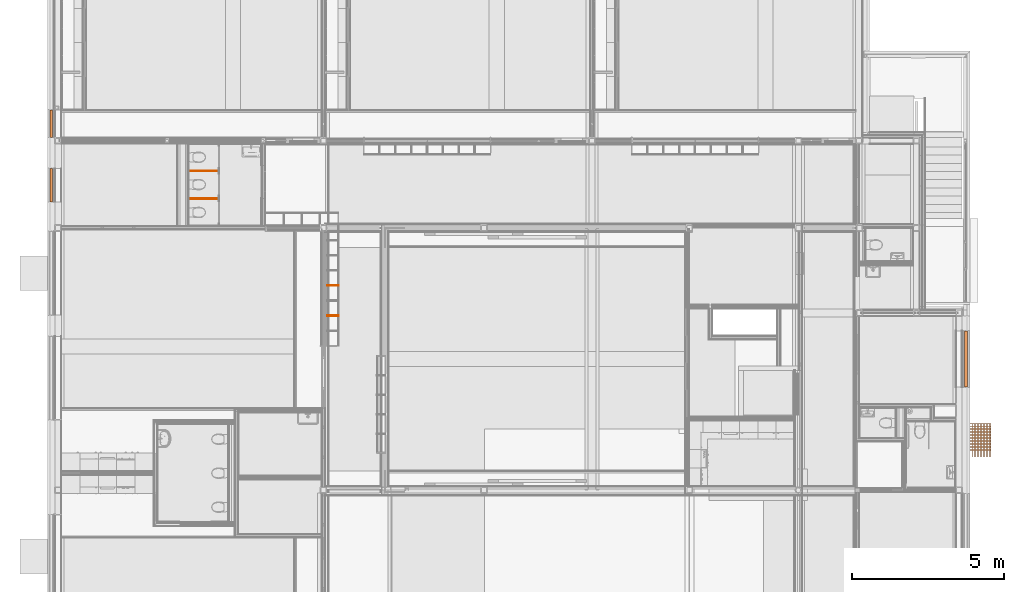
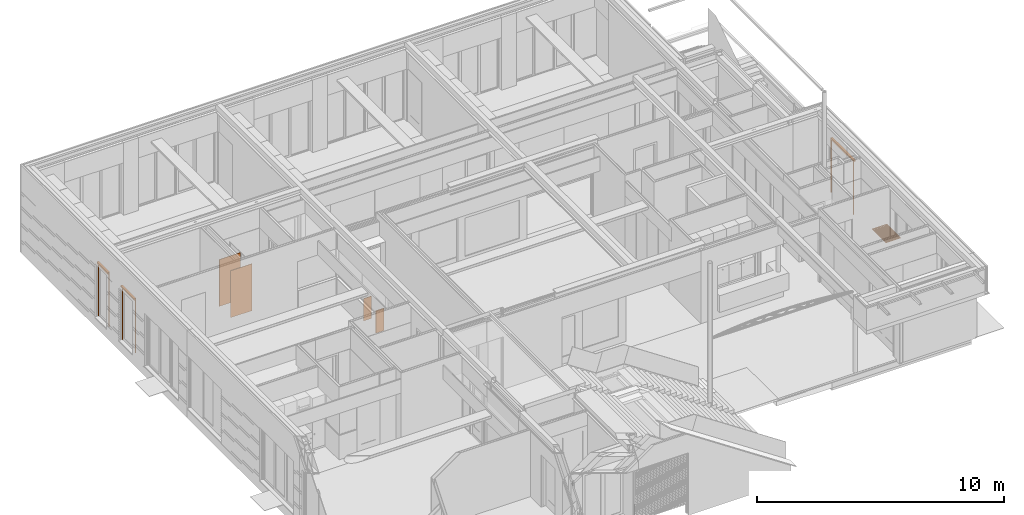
# One storey, part 157 of 165: 8 proxies.
"""IFC2X3 building model written with IfcOpenShell, lengths in millimetres."""

from ifc_helpers import new_model, entity, si_unit, converted_unit, derived_unit, money_unit, direction, frame, origin_with_axes, place, context, subcontext, project, spatial, open_shell, faceted_brep, surface_model, material, type_object, element, save


model = new_model("IFC2X3")

# Units and contexts
model_context = context("Model", 3, precision=0.01, world=origin_with_axes(), true_north=direction((0.0, 1.0)))
body_context = subcontext(model_context, "Body", "Model", "MODEL_VIEW")
ifc_project = project(units=[si_unit("LENGTHUNIT", "METRE", prefix="MILLI"), si_unit("AREAUNIT", "SQUARE_METRE"), si_unit("VOLUMEUNIT", "CUBIC_METRE"), converted_unit("PLANEANGLEUNIT", "DEGREE", entity("IfcPlaneAngleMeasure", 0.0174532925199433), si_unit("PLANEANGLEUNIT", "RADIAN"), dimensions=[0, 0, 0, 0, 0, 0, 0]), money_unit("EUR"), converted_unit("TIMEUNIT", "Year", entity("IfcTimeMeasure", 31556926.0), si_unit("TIMEUNIT", "SECOND"), dimensions=[0, 0, 1, 0, 0, 0, 0]), si_unit("MASSUNIT", "GRAM", prefix="KILO"), si_unit("THERMODYNAMICTEMPERATUREUNIT", "DEGREE_CELSIUS"), si_unit("LUMINOUSINTENSITYUNIT", "LUMEN"), si_unit("ENERGYUNIT", "JOULE", prefix="MEGA"), derived_unit("THERMALCONDUCTANCEUNIT", [(si_unit("POWERUNIT", "WATT"), 1), (si_unit("LENGTHUNIT", "METRE"), -1), (si_unit("THERMODYNAMICTEMPERATUREUNIT", "KELVIN"), -1)]), derived_unit("SPECIFICHEATCAPACITYUNIT", [(si_unit("ENERGYUNIT", "JOULE"), 1), (si_unit("MASSUNIT", "GRAM", prefix="KILO"), -1), (si_unit("THERMODYNAMICTEMPERATUREUNIT", "KELVIN"), -1)]), derived_unit("MASSDENSITYUNIT", [(si_unit("MASSUNIT", "GRAM", prefix="KILO"), 1), (si_unit("VOLUMEUNIT", "CUBIC_METRE"), -1)])], contexts=[model_context])

# Site, building, storey
site_placement = place(None, origin_with_axes())
site = spatial("IfcSite", under=ifc_project, at=site_placement, Name="Site", CompositionType="ELEMENT")
building_placement = place(site_placement, origin_with_axes())
building = spatial("IfcBuilding", under=site, at=building_placement, Name="Naam gebouw", CompositionType="ELEMENT")
storey_placement = place(building_placement, origin_with_axes())
storey = spatial("IfcBuildingStorey", under=building, at=storey_placement, Name="Begane grond", CompositionType="ELEMENT", Elevation=0.0)

# Proxies
ifc_material_1 = material(Name="ALG - ALGEMEEN")
building_element_proxy_type_1 = type_object("IfcBuildingElementProxyType", Name="ALG - ALGEMEEN 20", PredefinedType="NOTDEFINED")
proxy_1_placement = place(storey_placement, frame((5404.999999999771, 20412.4998112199, 100.0), z_axis=(0.0, 0.0, 1.0), x_axis=(-1.0, 0.0, 0.0)))
element("IfcBuildingElementProxy", 1, at=proxy_1_placement, inside=storey, type_object=building_element_proxy_type_1, material=ifc_material_1, Name="_Wand-x", context=body_context, shape_type="Brep", body=[
    faceted_brep([(999.9999999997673, -9.999999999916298, 2320.0), (999.9999999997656, 10.00000000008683, 2320.0), (9.999999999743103, 10.00000000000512, 2320.0), (9.99999999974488, -9.99999999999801, 2320.0), (999.9999999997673, -9.999999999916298, 0.0), (999.9999999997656, 10.00000000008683, 0.0), (9.999999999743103, 10.00000000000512, 0.0), (9.99999999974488, -9.99999999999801, 0.0)], [[[0, 1, 2, 3]], [[1, 0, 4, 5]], [[1, 5, 6, 2]], [[7, 3, 2, 6]], [[4, 0, 3, 7]], [[5, 4, 7, 6]]]),
])
proxy_2_placement = place(storey_placement, frame((5405.000019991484, 21329.98999294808, 100.0), z_axis=(0.0, 0.0, 1.0), x_axis=(-1.0, 0.0, 0.0)))
element("IfcBuildingElementProxy", 2, at=proxy_2_placement, inside=storey, type_object=building_element_proxy_type_1, material=ifc_material_1, Name="_Wand-x", context=body_context, shape_type="Brep", body=[
    faceted_brep([(1000.00001999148, -9.999999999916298, 2320.0), (1000.000019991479, 10.00000000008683, 2320.0), (10.00001999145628, 10.00000000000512, 2320.0), (10.00001999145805, -9.99999999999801, 2320.0), (1000.00001999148, -9.999999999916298, 0.0), (1000.000019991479, 10.00000000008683, 0.0), (10.00001999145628, 10.00000000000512, 0.0), (10.00001999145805, -9.99999999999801, 0.0)], [[[0, 1, 2, 3]], [[1, 0, 4, 5]], [[1, 5, 6, 2]], [[7, 3, 2, 6]], [[4, 0, 3, 7]], [[5, 4, 7, 6]]]),
])
building_element_proxy_type_2 = type_object("IfcBuildingElementProxyType", Name="Screen 26 KM", PredefinedType="NOTDEFINED")
proxy_3_placement = place(storey_placement, frame((29982.0, 14205.99778166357, -8.0), z_axis=(0.0, 0.0, 1.0), x_axis=(0.0, 1.0, 0.0)))
element("IfcBuildingElementProxy", 3, at=proxy_3_placement, inside=storey, type_object=building_element_proxy_type_2, Name="_Object-x", context=body_context, shape_type="SurfaceModel", body=[
    faceted_brep([(0.0, 0.0, 0.0), (0.0, -30.0, 0.0), (0.0, -30.0, 2615.0), (0.0, 0.0, 2615.0), (40.0, 0.0, 0.0), (40.0, -4.999999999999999, 0.0), (37.0, -4.999999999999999, 0.0), (37.0, -3.0, 0.0), (3.0, -3.0, 0.0), (3.0, -27.0, 0.0), (37.0, -27.0, 0.0), (37.0, -25.0, 0.0), (40.0, -25.0, 0.0), (40.0, -30.0, 0.0), (40.0, -30.0, 2615.0), (40.0, -25.0, 2615.0), (37.0, -25.0, 2615.0), (37.0, -27.0, 2615.0), (3.0, -27.0, 2615.0), (3.0, -3.0, 2615.0), (37.0, -3.0, 2615.0), (37.0, -4.999999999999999, 2615.0), (40.0, -4.999999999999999, 2615.0), (40.0, 0.0, 2615.0)], [[[0, 1, 2, 3]], [[0, 4, 5, 6, 7, 8, 9, 10, 11, 12, 13, 1]], [[1, 13, 14, 2]], [[3, 2, 14, 15, 16, 17, 18, 19, 20, 21, 22, 23]], [[4, 0, 3, 23]], [[5, 4, 23, 22]], [[6, 5, 22, 21]], [[7, 6, 21, 20]], [[8, 7, 20, 19]], [[9, 8, 19, 18]], [[10, 9, 18, 17]], [[11, 10, 17, 16]], [[12, 11, 16, 15]], [[13, 12, 15, 14]]]),
    faceted_brep([(1850.000000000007, 0.0, 0.0), (1850.000000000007, 0.0, 2615.0), (1850.000000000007, -30.0, 2615.0), (1850.000000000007, -30.0, 0.0), (1810.000000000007, 0.0, 0.0), (1810.000000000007, 0.0, 2615.0), (1810.000000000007, -4.999999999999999, 2615.0), (1813.000000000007, -4.999999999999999, 2615.0), (1813.000000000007, -3.0, 2615.0), (1847.000000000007, -3.0, 2615.0), (1847.000000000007, -27.0, 2615.0), (1813.000000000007, -27.0, 2615.0), (1813.000000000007, -25.0, 2615.0), (1810.000000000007, -25.0, 2615.0), (1810.000000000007, -30.0, 2615.0), (1810.000000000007, -30.0, 0.0), (1810.000000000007, -25.0, 0.0), (1813.000000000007, -25.0, 0.0), (1813.000000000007, -27.0, 0.0), (1847.000000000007, -27.0, 0.0), (1847.000000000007, -3.0, 0.0), (1813.000000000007, -3.0, 0.0), (1813.000000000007, -4.999999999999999, 0.0), (1810.000000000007, -4.999999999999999, 0.0)], [[[0, 1, 2, 3]], [[4, 5, 1, 0]], [[1, 5, 6, 7, 8, 9, 10, 11, 12, 13, 14, 2]], [[3, 2, 14, 15]], [[0, 3, 15, 16, 17, 18, 19, 20, 21, 22, 23, 4]], [[23, 6, 5, 4]], [[22, 7, 6, 23]], [[21, 8, 7, 22]], [[20, 9, 8, 21]], [[19, 10, 9, 20]], [[18, 11, 10, 19]], [[17, 12, 11, 18]], [[16, 13, 12, 17]], [[15, 14, 13, 16]]]),
    surface_model("IfcShellBasedSurfaceModel", [(0.0, 0.0, 2700.0), (0.0, 0.0, 2615.0), (0.0, -85.0, 2615.0), (0.0, -85.0, 2700.0)], [open_shell([[[0, 1, 2, 3]]])]),
    surface_model("IfcShellBasedSurfaceModel", [(0.01, 0.0, 2700.0), (0.009999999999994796, -85.0, 2700.0), (1849.990000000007, -85.00000000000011, 2700.0), (1849.990000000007, 0.0, 2700.0), (0.01000000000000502, 0.0, 2618.0), (0.01000000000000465, -6.0, 2618.0), (0.01000000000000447, -6.0, 2621.0), (0.01000000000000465, -3.0, 2621.0), (0.01, -3.0, 2697.0), (0.009999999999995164, -82.0, 2697.0), (0.01, -82.0, 2618.0), (0.01000000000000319, -30.0, 2618.0), (0.01000000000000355, -30.0, 2612.0), (0.01000000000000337, -33.0, 2612.0), (0.01000000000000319, -33.0, 2615.0), (0.01, -85.0, 2615.0), (1849.990000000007, -85.00000000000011, 2615.0), (1849.990000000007, -33.00000000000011, 2615.0), (1849.990000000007, -33.00000000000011, 2612.0), (1849.990000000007, -30.00000000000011, 2612.0), (1849.990000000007, -30.00000000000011, 2618.0), (1849.990000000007, -82.00000000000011, 2618.0), (1849.990000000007, -82.00000000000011, 2697.0), (1849.990000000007, -3.000000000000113, 2697.0), (1849.990000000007, -3.000000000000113, 2621.0), (1849.990000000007, -6.000000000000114, 2621.0), (1849.990000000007, -6.000000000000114, 2618.0), (1849.990000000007, 0.0, 2618.0)], [open_shell([[[0, 1, 2, 3]], [[0, 4, 5, 6, 7, 8, 9, 10, 11, 12, 13, 14, 15, 1]], [[1, 15, 16, 2]], [[3, 2, 16, 17, 18, 19, 20, 21, 22, 23, 24, 25, 26, 27]], [[4, 0, 3, 27]], [[13, 12, 19, 18]], [[14, 13, 18, 17]], [[15, 14, 17, 16]]])]),
    surface_model("IfcShellBasedSurfaceModel", [(1849.990000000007, 0.0, 2700.0), (1849.990000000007, 0.0, 2615.0), (1849.990000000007, -85.00000000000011, 2615.0), (1849.990000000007, -85.00000000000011, 2700.0)], [open_shell([[[0, 1, 2, 3]]])]),
])
proxy_4_placement = place(storey_placement, frame((-81.9999999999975, 21409.9998112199, -8.0), z_axis=(0.0, 0.0, 1.0), x_axis=(0.0, -1.0, 0.0)))
element("IfcBuildingElementProxy", 4, at=proxy_4_placement, inside=storey, type_object=building_element_proxy_type_2, Name="_Object-x", context=body_context, shape_type="SurfaceModel", body=[
    faceted_brep([(0.0, 0.0, 0.0), (0.0, -30.0, 0.0), (0.0, -30.0, 2615.0), (0.0, 0.0, 2615.0), (40.0, 0.0, 0.0), (40.0, -4.999999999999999, 0.0), (37.0, -4.999999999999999, 0.0), (37.0, -3.0, 0.0), (3.0, -3.0, 0.0), (3.0, -27.0, 0.0), (37.0, -27.0, 0.0), (37.0, -25.0, 0.0), (40.0, -25.0, 0.0), (40.0, -30.0, 0.0), (40.0, -30.0, 2615.0), (40.0, -25.0, 2615.0), (37.0, -25.0, 2615.0), (37.0, -27.0, 2615.0), (3.0, -27.0, 2615.0), (3.0, -3.0, 2615.0), (37.0, -3.0, 2615.0), (37.0, -4.999999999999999, 2615.0), (40.0, -4.999999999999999, 2615.0), (40.0, 0.0, 2615.0)], [[[0, 1, 2, 3]], [[0, 4, 5, 6, 7, 8, 9, 10, 11, 12, 13, 1]], [[1, 13, 14, 2]], [[3, 2, 14, 15, 16, 17, 18, 19, 20, 21, 22, 23]], [[4, 0, 3, 23]], [[5, 4, 23, 22]], [[6, 5, 22, 21]], [[7, 6, 21, 20]], [[8, 7, 20, 19]], [[9, 8, 19, 18]], [[10, 9, 18, 17]], [[11, 10, 17, 16]], [[12, 11, 16, 15]], [[13, 12, 15, 14]]]),
    faceted_brep([(1100.000000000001, 0.0, 0.0), (1100.000000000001, 0.0, 2615.0), (1100.000000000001, -30.0, 2615.0), (1100.000000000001, -30.0, 0.0), (1060.000000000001, 0.0, 0.0), (1060.000000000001, 0.0, 2615.0), (1060.000000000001, -4.999999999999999, 2615.0), (1063.000000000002, -4.999999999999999, 2615.0), (1063.000000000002, -3.0, 2615.0), (1097.000000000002, -3.0, 2615.0), (1097.000000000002, -27.0, 2615.0), (1063.000000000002, -27.0, 2615.0), (1063.000000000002, -25.0, 2615.0), (1060.000000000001, -25.0, 2615.0), (1060.000000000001, -30.0, 2615.0), (1060.000000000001, -30.0, 0.0), (1060.000000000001, -25.0, 0.0), (1063.000000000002, -25.0, 0.0), (1063.000000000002, -27.0, 0.0), (1097.000000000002, -27.0, 0.0), (1097.000000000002, -3.0, 0.0), (1063.000000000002, -3.0, 0.0), (1063.000000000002, -4.999999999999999, 0.0), (1060.000000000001, -4.999999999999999, 0.0)], [[[0, 1, 2, 3]], [[4, 5, 1, 0]], [[1, 5, 6, 7, 8, 9, 10, 11, 12, 13, 14, 2]], [[3, 2, 14, 15]], [[0, 3, 15, 16, 17, 18, 19, 20, 21, 22, 23, 4]], [[23, 6, 5, 4]], [[22, 7, 6, 23]], [[21, 8, 7, 22]], [[20, 9, 8, 21]], [[19, 10, 9, 20]], [[18, 11, 10, 19]], [[17, 12, 11, 18]], [[16, 13, 12, 17]], [[15, 14, 13, 16]]]),
    surface_model("IfcShellBasedSurfaceModel", [(0.0, 0.0, 2700.0), (0.0, 0.0, 2615.0), (0.0, -85.0, 2615.0), (0.0, -85.0, 2700.0)], [open_shell([[[0, 1, 2, 3]]])]),
    surface_model("IfcShellBasedSurfaceModel", [(0.01, 0.0, 2700.0), (0.009999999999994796, -85.0, 2700.0), (1099.990000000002, -85.00000000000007, 2700.0), (1099.990000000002, 0.0, 2700.0), (0.01000000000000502, 0.0, 2618.0), (0.01000000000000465, -6.0, 2618.0), (0.01000000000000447, -6.0, 2621.0), (0.01000000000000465, -3.0, 2621.0), (0.01, -3.0, 2697.0), (0.009999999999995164, -82.0, 2697.0), (0.01, -82.0, 2618.0), (0.01000000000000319, -30.0, 2618.0), (0.01000000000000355, -30.0, 2612.0), (0.01000000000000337, -33.0, 2612.0), (0.01000000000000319, -33.0, 2615.0), (0.01, -85.0, 2615.0), (1099.990000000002, -85.00000000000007, 2615.0), (1099.990000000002, -33.00000000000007, 2615.0), (1099.990000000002, -33.00000000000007, 2612.0), (1099.990000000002, -30.00000000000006, 2612.0), (1099.990000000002, -30.00000000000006, 2618.0), (1099.990000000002, -82.00000000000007, 2618.0), (1099.990000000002, -82.00000000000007, 2697.0), (1099.990000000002, -3.000000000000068, 2697.0), (1099.990000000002, -3.000000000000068, 2621.0), (1099.990000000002, -6.000000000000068, 2621.0), (1099.990000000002, -6.000000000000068, 2618.0), (1099.990000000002, 0.0, 2618.0)], [open_shell([[[0, 1, 2, 3]], [[0, 4, 5, 6, 7, 8, 9, 10, 11, 12, 13, 14, 15, 1]], [[1, 15, 16, 2]], [[3, 2, 16, 17, 18, 19, 20, 21, 22, 23, 24, 25, 26, 27]], [[4, 0, 3, 27]], [[13, 12, 19, 18]], [[14, 13, 18, 17]], [[15, 14, 17, 16]]])]),
    surface_model("IfcShellBasedSurfaceModel", [(1099.990000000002, 0.0, 2700.0), (1099.990000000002, 0.0, 2615.0), (1099.990000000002, -85.00000000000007, 2615.0), (1099.990000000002, -85.00000000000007, 2700.0)], [open_shell([[[0, 1, 2, 3]]])]),
])
proxy_5_placement = place(storey_placement, frame((-81.99999999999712, 23339.99984707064, -8.0), z_axis=(0.0, 0.0, 1.0), x_axis=(0.0, -1.0, 0.0)))
element("IfcBuildingElementProxy", 5, at=proxy_5_placement, inside=storey, type_object=building_element_proxy_type_2, Name="_Object-x", context=body_context, shape_type="SurfaceModel", body=[
    faceted_brep([(0.0, 0.0, 0.0), (0.0, -30.0, 0.0), (0.0, -30.0, 2615.0), (0.0, 0.0, 2615.0), (40.0, 0.0, 0.0), (40.0, -4.999999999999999, 0.0), (37.0, -4.999999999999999, 0.0), (37.0, -3.0, 0.0), (3.0, -3.0, 0.0), (3.0, -27.0, 0.0), (37.0, -27.0, 0.0), (37.0, -25.0, 0.0), (40.0, -25.0, 0.0), (40.0, -30.0, 0.0), (40.0, -30.0, 2615.0), (40.0, -25.0, 2615.0), (37.0, -25.0, 2615.0), (37.0, -27.0, 2615.0), (3.0, -27.0, 2615.0), (3.0, -3.0, 2615.0), (37.0, -3.0, 2615.0), (37.0, -4.999999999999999, 2615.0), (40.0, -4.999999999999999, 2615.0), (40.0, 0.0, 2615.0)], [[[0, 1, 2, 3]], [[0, 4, 5, 6, 7, 8, 9, 10, 11, 12, 13, 1]], [[1, 13, 14, 2]], [[3, 2, 14, 15, 16, 17, 18, 19, 20, 21, 22, 23]], [[4, 0, 3, 23]], [[5, 4, 23, 22]], [[6, 5, 22, 21]], [[7, 6, 21, 20]], [[8, 7, 20, 19]], [[9, 8, 19, 18]], [[10, 9, 18, 17]], [[11, 10, 17, 16]], [[12, 11, 16, 15]], [[13, 12, 15, 14]]]),
    faceted_brep([(899.9999999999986, 0.0, 0.0), (899.9999999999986, 0.0, 2615.0), (899.9999999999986, -30.0, 2615.0), (899.9999999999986, -30.0, 0.0), (859.9999999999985, 0.0, 0.0), (859.9999999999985, 0.0, 2615.0), (859.9999999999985, -4.999999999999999, 2615.0), (862.9999999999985, -4.999999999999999, 2615.0), (862.9999999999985, -3.0, 2615.0), (896.9999999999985, -3.0, 2615.0), (896.9999999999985, -27.0, 2615.0), (862.9999999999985, -27.0, 2615.0), (862.9999999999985, -25.0, 2615.0), (859.9999999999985, -25.0, 2615.0), (859.9999999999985, -30.0, 2615.0), (859.9999999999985, -30.0, 0.0), (859.9999999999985, -25.0, 0.0), (862.9999999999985, -25.0, 0.0), (862.9999999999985, -27.0, 0.0), (896.9999999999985, -27.0, 0.0), (896.9999999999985, -3.0, 0.0), (862.9999999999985, -3.0, 0.0), (862.9999999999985, -4.999999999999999, 0.0), (859.9999999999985, -4.999999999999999, 0.0)], [[[0, 1, 2, 3]], [[4, 5, 1, 0]], [[1, 5, 6, 7, 8, 9, 10, 11, 12, 13, 14, 2]], [[3, 2, 14, 15]], [[0, 3, 15, 16, 17, 18, 19, 20, 21, 22, 23, 4]], [[23, 6, 5, 4]], [[22, 7, 6, 23]], [[21, 8, 7, 22]], [[20, 9, 8, 21]], [[19, 10, 9, 20]], [[18, 11, 10, 19]], [[17, 12, 11, 18]], [[16, 13, 12, 17]], [[15, 14, 13, 16]]]),
    surface_model("IfcShellBasedSurfaceModel", [(0.0, 0.0, 2700.0), (0.0, 0.0, 2615.0), (0.0, -85.0, 2615.0), (0.0, -85.0, 2700.0)], [open_shell([[[0, 1, 2, 3]]])]),
    surface_model("IfcShellBasedSurfaceModel", [(0.01, 0.0, 2700.0), (0.009999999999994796, -85.0, 2700.0), (899.9899999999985, -85.00000000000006, 2700.0), (899.9899999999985, 0.0, 2700.0), (0.01000000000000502, 0.0, 2618.0), (0.01000000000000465, -6.0, 2618.0), (0.01000000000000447, -6.0, 2621.0), (0.01000000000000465, -3.0, 2621.0), (0.01, -3.0, 2697.0), (0.009999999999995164, -82.0, 2697.0), (0.01, -82.0, 2618.0), (0.01000000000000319, -30.0, 2618.0), (0.01000000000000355, -30.0, 2612.0), (0.01000000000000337, -33.0, 2612.0), (0.01000000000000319, -33.0, 2615.0), (0.01, -85.0, 2615.0), (899.9899999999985, -85.00000000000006, 2615.0), (899.9899999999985, -33.00000000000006, 2615.0), (899.9899999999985, -33.00000000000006, 2612.0), (899.9899999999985, -30.00000000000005, 2612.0), (899.9899999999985, -30.00000000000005, 2618.0), (899.9899999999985, -82.00000000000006, 2618.0), (899.9899999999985, -82.00000000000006, 2697.0), (899.9899999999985, -3.000000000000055, 2697.0), (899.9899999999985, -3.000000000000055, 2621.0), (899.9899999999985, -6.000000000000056, 2621.0), (899.9899999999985, -6.000000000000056, 2618.0), (899.9899999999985, 0.0, 2618.0)], [open_shell([[[0, 1, 2, 3]], [[0, 4, 5, 6, 7, 8, 9, 10, 11, 12, 13, 14, 15, 1]], [[1, 15, 16, 2]], [[3, 2, 16, 17, 18, 19, 20, 21, 22, 23, 24, 25, 26, 27]], [[4, 0, 3, 27]], [[13, 12, 19, 18]], [[14, 13, 18, 17]], [[15, 14, 17, 16]]])]),
    surface_model("IfcShellBasedSurfaceModel", [(899.9899999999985, 0.0, 2700.0), (899.9899999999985, 0.0, 2615.0), (899.9899999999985, -85.00000000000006, 2615.0), (899.9899999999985, -85.00000000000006, 2700.0)], [open_shell([[[0, 1, 2, 3]]])]),
])
building_element_proxy_type_3 = type_object("IfcBuildingElementProxyType", Name="Roostervloer 26 KM", PredefinedType="NOTDEFINED")
proxy_6_placement = place(storey_placement, frame((30849.99999999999, 11899.99778166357, -70.0), z_axis=(0.0, 0.0, 1.0), x_axis=(1.0, 0.0, 0.0)))
element("IfcBuildingElementProxy", 6, at=proxy_6_placement, inside=storey, type_object=building_element_proxy_type_3, Name="_Object-x", context=body_context, shape_type="Brep", body=[
    faceted_brep([(-10.0, 0.0, 20.0), (-10.0, 1100.0, 20.0), (0.0, 1100.0, 20.0), (0.0, 0.0, 20.0), (-10.0, 0.0, 50.0), (-10.0, 1100.0, 50.0), (0.0, 1100.0, 50.0), (0.0, 0.0, 50.0)], [[[0, 1, 2, 3]], [[0, 4, 5, 1]], [[1, 5, 6, 2]], [[2, 6, 7, 3]], [[3, 7, 4, 0]], [[7, 6, 5, 4]]]),
    faceted_brep([(-60.00000000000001, 10.0, 20.0), (-60.00000000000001, 1090.0, 20.0), (-50.0, 1090.0, 20.0), (-50.0, 10.0, 20.0), (-60.00000000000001, 10.0, 50.0), (-60.00000000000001, 1090.0, 50.0), (-50.0, 1090.0, 50.0), (-50.0, 10.0, 50.0)], [[[0, 1, 2, 3]], [[0, 4, 5, 1]], [[1, 5, 6, 2]], [[2, 6, 7, 3]], [[3, 7, 4, 0]], [[7, 6, 5, 4]]]),
    faceted_brep([(-110.0, 10.0, 20.0), (-110.0, 1090.0, 20.0), (-100.0, 1090.0, 20.0), (-100.0, 10.0, 20.0), (-110.0, 10.0, 50.0), (-110.0, 1090.0, 50.0), (-100.0, 1090.0, 50.0), (-100.0, 10.0, 50.0)], [[[0, 1, 2, 3]], [[0, 4, 5, 1]], [[1, 5, 6, 2]], [[2, 6, 7, 3]], [[3, 7, 4, 0]], [[7, 6, 5, 4]]]),
    faceted_brep([(-160.0, 10.0, 20.0), (-160.0, 1090.0, 20.0), (-150.0, 1090.0, 20.0), (-150.0, 10.0, 20.0), (-160.0, 10.0, 50.0), (-160.0, 1090.0, 50.0), (-150.0, 1090.0, 50.0), (-150.0, 10.0, 50.0)], [[[0, 1, 2, 3]], [[0, 4, 5, 1]], [[1, 5, 6, 2]], [[2, 6, 7, 3]], [[3, 7, 4, 0]], [[7, 6, 5, 4]]]),
    faceted_brep([(-210.0, 10.0, 20.0), (-210.0, 1090.0, 20.0), (-200.0, 1090.0, 20.0), (-200.0, 10.0, 20.0), (-210.0, 10.0, 50.0), (-210.0, 1090.0, 50.0), (-200.0, 1090.0, 50.0), (-200.0, 10.0, 50.0)], [[[0, 1, 2, 3]], [[0, 4, 5, 1]], [[1, 5, 6, 2]], [[2, 6, 7, 3]], [[3, 7, 4, 0]], [[7, 6, 5, 4]]]),
    faceted_brep([(-260.0, 10.0, 20.0), (-260.0, 1090.0, 20.0), (-250.0, 1090.0, 20.0), (-250.0, 10.0, 20.0), (-260.0, 10.0, 50.0), (-260.0, 1090.0, 50.0), (-250.0, 1090.0, 50.0), (-250.0, 10.0, 50.0)], [[[0, 1, 2, 3]], [[0, 4, 5, 1]], [[1, 5, 6, 2]], [[2, 6, 7, 3]], [[3, 7, 4, 0]], [[7, 6, 5, 4]]]),
    faceted_brep([(-310.0, 10.0, 20.0), (-310.0, 1090.0, 20.0), (-300.0, 1090.0, 20.0), (-300.0, 10.0, 20.0), (-310.0, 10.0, 50.0), (-310.0, 1090.0, 50.0), (-300.0, 1090.0, 50.0), (-300.0, 10.0, 50.0)], [[[0, 1, 2, 3]], [[0, 4, 5, 1]], [[1, 5, 6, 2]], [[2, 6, 7, 3]], [[3, 7, 4, 0]], [[7, 6, 5, 4]]]),
    faceted_brep([(-360.0, 10.0, 20.0), (-360.0, 1090.0, 20.0), (-350.0, 1090.0, 20.0), (-350.0, 10.0, 20.0), (-360.0, 10.0, 50.0), (-360.0, 1090.0, 50.0), (-350.0, 1090.0, 50.0), (-350.0, 10.0, 50.0)], [[[0, 1, 2, 3]], [[0, 4, 5, 1]], [[1, 5, 6, 2]], [[2, 6, 7, 3]], [[3, 7, 4, 0]], [[7, 6, 5, 4]]]),
    faceted_brep([(-410.0, 10.0, 20.0), (-410.0, 1090.0, 20.0), (-399.9999999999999, 1090.0, 20.0), (-399.9999999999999, 10.0, 20.0), (-410.0, 10.0, 50.0), (-410.0, 1090.0, 50.0), (-399.9999999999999, 1090.0, 50.0), (-399.9999999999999, 10.0, 50.0)], [[[0, 1, 2, 3]], [[0, 4, 5, 1]], [[1, 5, 6, 2]], [[2, 6, 7, 3]], [[3, 7, 4, 0]], [[7, 6, 5, 4]]]),
    faceted_brep([(-459.9999999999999, 10.0, 20.0), (-459.9999999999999, 1090.0, 20.0), (-449.9999999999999, 1090.0, 20.0), (-449.9999999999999, 10.0, 20.0), (-459.9999999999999, 10.0, 50.0), (-459.9999999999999, 1090.0, 50.0), (-449.9999999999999, 1090.0, 50.0), (-449.9999999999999, 10.0, 50.0)], [[[0, 1, 2, 3]], [[0, 4, 5, 1]], [[1, 5, 6, 2]], [[2, 6, 7, 3]], [[3, 7, 4, 0]], [[7, 6, 5, 4]]]),
    faceted_brep([(-509.9999999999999, 10.0, 20.0), (-509.9999999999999, 1090.0, 20.0), (-499.9999999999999, 1090.0, 20.0), (-499.9999999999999, 10.0, 20.0), (-509.9999999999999, 10.0, 50.0), (-509.9999999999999, 1090.0, 50.0), (-499.9999999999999, 1090.0, 50.0), (-499.9999999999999, 10.0, 50.0)], [[[0, 1, 2, 3]], [[0, 4, 5, 1]], [[1, 5, 6, 2]], [[2, 6, 7, 3]], [[3, 7, 4, 0]], [[7, 6, 5, 4]]]),
    faceted_brep([(-559.9999999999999, 10.0, 20.0), (-559.9999999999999, 1090.0, 20.0), (-549.9999999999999, 1090.0, 20.0), (-549.9999999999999, 10.0, 20.0), (-559.9999999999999, 10.0, 50.0), (-559.9999999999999, 1090.0, 50.0), (-549.9999999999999, 1090.0, 50.0), (-549.9999999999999, 10.0, 50.0)], [[[0, 1, 2, 3]], [[0, 4, 5, 1]], [[1, 5, 6, 2]], [[2, 6, 7, 3]], [[3, 7, 4, 0]], [[7, 6, 5, 4]]]),
    faceted_brep([(-610.0, 10.0, 20.0), (-610.0, 1090.0, 20.0), (-600.0, 1090.0, 20.0), (-600.0, 10.0, 20.0), (-610.0, 10.0, 50.0), (-610.0, 1090.0, 50.0), (-600.0, 1090.0, 50.0), (-600.0, 10.0, 50.0)], [[[0, 1, 2, 3]], [[0, 4, 5, 1]], [[1, 5, 6, 2]], [[2, 6, 7, 3]], [[3, 7, 4, 0]], [[7, 6, 5, 4]]]),
    faceted_brep([(-699.9999999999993, 0.0, 20.0), (-699.9999999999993, 1100.0, 20.0), (-689.9999999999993, 1100.0, 20.0), (-689.9999999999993, 0.0, 20.0), (-699.9999999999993, 0.0, 50.0), (-699.9999999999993, 1100.0, 50.0), (-689.9999999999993, 1100.0, 50.0), (-689.9999999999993, 0.0, 50.0)], [[[0, 1, 2, 3]], [[0, 4, 5, 1]], [[1, 5, 6, 2]], [[2, 6, 7, 3]], [[3, 7, 4, 0]], [[7, 6, 5, 4]]]),
    faceted_brep([(-689.9999999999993, 0.0, 0.0), (-689.9999999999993, 10.0, 0.0), (-10.0, 10.0, 0.0), (-10.0, 0.0, 0.0), (-689.9999999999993, 0.0, 50.0), (-689.9999999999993, 10.0, 50.0), (-10.0, 10.0, 50.0), (-10.0, 0.0, 50.0)], [[[0, 1, 2, 3]], [[0, 4, 5, 1]], [[1, 5, 6, 2]], [[2, 6, 7, 3]], [[3, 7, 4, 0]], [[7, 6, 5, 4]]]),
    faceted_brep([(-689.9999999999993, 50.0, 0.0), (-689.9999999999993, 60.00000000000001, 0.0), (-10.0, 60.00000000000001, 0.0), (-10.0, 50.0, 0.0), (-689.9999999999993, 50.0, 50.0), (-689.9999999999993, 60.00000000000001, 50.0), (-10.0, 60.00000000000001, 50.0), (-10.0, 50.0, 50.0)], [[[0, 1, 2, 3]], [[0, 4, 5, 1]], [[1, 5, 6, 2]], [[2, 6, 7, 3]], [[3, 7, 4, 0]], [[7, 6, 5, 4]]]),
    faceted_brep([(-689.9999999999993, 100.0, 0.0), (-689.9999999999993, 110.0, 0.0), (-10.0, 110.0, 0.0), (-10.0, 100.0, 0.0), (-689.9999999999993, 100.0, 50.0), (-689.9999999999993, 110.0, 50.0), (-10.0, 110.0, 50.0), (-10.0, 100.0, 50.0)], [[[0, 1, 2, 3]], [[0, 4, 5, 1]], [[1, 5, 6, 2]], [[2, 6, 7, 3]], [[3, 7, 4, 0]], [[7, 6, 5, 4]]]),
    faceted_brep([(-689.9999999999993, 150.0, 0.0), (-689.9999999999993, 160.0, 0.0), (-10.0, 160.0, 0.0), (-10.0, 150.0, 0.0), (-689.9999999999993, 150.0, 50.0), (-689.9999999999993, 160.0, 50.0), (-10.0, 160.0, 50.0), (-10.0, 150.0, 50.0)], [[[0, 1, 2, 3]], [[0, 4, 5, 1]], [[1, 5, 6, 2]], [[2, 6, 7, 3]], [[3, 7, 4, 0]], [[7, 6, 5, 4]]]),
    faceted_brep([(-689.9999999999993, 200.0, 0.0), (-689.9999999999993, 210.0, 0.0), (-10.0, 210.0, 0.0), (-10.0, 200.0, 0.0), (-689.9999999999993, 200.0, 50.0), (-689.9999999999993, 210.0, 50.0), (-10.0, 210.0, 50.0), (-10.0, 200.0, 50.0)], [[[0, 1, 2, 3]], [[0, 4, 5, 1]], [[1, 5, 6, 2]], [[2, 6, 7, 3]], [[3, 7, 4, 0]], [[7, 6, 5, 4]]]),
    faceted_brep([(-689.9999999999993, 250.0, 0.0), (-689.9999999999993, 260.0, 0.0), (-10.0, 260.0, 0.0), (-10.0, 250.0, 0.0), (-689.9999999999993, 250.0, 50.0), (-689.9999999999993, 260.0, 50.0), (-10.0, 260.0, 50.0), (-10.0, 250.0, 50.0)], [[[0, 1, 2, 3]], [[0, 4, 5, 1]], [[1, 5, 6, 2]], [[2, 6, 7, 3]], [[3, 7, 4, 0]], [[7, 6, 5, 4]]]),
    faceted_brep([(-689.9999999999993, 300.0, 0.0), (-689.9999999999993, 310.0, 0.0), (-10.0, 310.0, 0.0), (-10.0, 300.0, 0.0), (-689.9999999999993, 300.0, 50.0), (-689.9999999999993, 310.0, 50.0), (-10.0, 310.0, 50.0), (-10.0, 300.0, 50.0)], [[[0, 1, 2, 3]], [[0, 4, 5, 1]], [[1, 5, 6, 2]], [[2, 6, 7, 3]], [[3, 7, 4, 0]], [[7, 6, 5, 4]]]),
    faceted_brep([(-689.9999999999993, 350.0, 0.0), (-689.9999999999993, 360.0, 0.0), (-10.0, 360.0, 0.0), (-10.0, 350.0, 0.0), (-689.9999999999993, 350.0, 50.0), (-689.9999999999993, 360.0, 50.0), (-10.0, 360.0, 50.0), (-10.0, 350.0, 50.0)], [[[0, 1, 2, 3]], [[0, 4, 5, 1]], [[1, 5, 6, 2]], [[2, 6, 7, 3]], [[3, 7, 4, 0]], [[7, 6, 5, 4]]]),
    faceted_brep([(-689.9999999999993, 399.9999999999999, 0.0), (-689.9999999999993, 410.0, 0.0), (-10.0, 410.0, 0.0), (-10.0, 399.9999999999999, 0.0), (-689.9999999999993, 399.9999999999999, 50.0), (-689.9999999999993, 410.0, 50.0), (-10.0, 410.0, 50.0), (-10.0, 399.9999999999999, 50.0)], [[[0, 1, 2, 3]], [[0, 4, 5, 1]], [[1, 5, 6, 2]], [[2, 6, 7, 3]], [[3, 7, 4, 0]], [[7, 6, 5, 4]]]),
    faceted_brep([(-689.9999999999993, 449.9999999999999, 0.0), (-689.9999999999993, 459.9999999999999, 0.0), (-10.0, 459.9999999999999, 0.0), (-10.0, 449.9999999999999, 0.0), (-689.9999999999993, 449.9999999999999, 50.0), (-689.9999999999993, 459.9999999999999, 50.0), (-10.0, 459.9999999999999, 50.0), (-10.0, 449.9999999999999, 50.0)], [[[0, 1, 2, 3]], [[0, 4, 5, 1]], [[1, 5, 6, 2]], [[2, 6, 7, 3]], [[3, 7, 4, 0]], [[7, 6, 5, 4]]]),
    faceted_brep([(-689.9999999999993, 499.9999999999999, 0.0), (-689.9999999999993, 509.9999999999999, 0.0), (-10.0, 509.9999999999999, 0.0), (-10.0, 499.9999999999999, 0.0), (-689.9999999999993, 499.9999999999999, 50.0), (-689.9999999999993, 509.9999999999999, 50.0), (-10.0, 509.9999999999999, 50.0), (-10.0, 499.9999999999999, 50.0)], [[[0, 1, 2, 3]], [[0, 4, 5, 1]], [[1, 5, 6, 2]], [[2, 6, 7, 3]], [[3, 7, 4, 0]], [[7, 6, 5, 4]]]),
    faceted_brep([(-689.9999999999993, 549.9999999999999, 0.0), (-689.9999999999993, 559.9999999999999, 0.0), (-10.0, 559.9999999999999, 0.0), (-10.0, 549.9999999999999, 0.0), (-689.9999999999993, 549.9999999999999, 50.0), (-689.9999999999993, 559.9999999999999, 50.0), (-10.0, 559.9999999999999, 50.0), (-10.0, 549.9999999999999, 50.0)], [[[0, 1, 2, 3]], [[0, 4, 5, 1]], [[1, 5, 6, 2]], [[2, 6, 7, 3]], [[3, 7, 4, 0]], [[7, 6, 5, 4]]]),
    faceted_brep([(-689.9999999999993, 600.0, 0.0), (-689.9999999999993, 610.0, 0.0), (-10.0, 610.0, 0.0), (-10.0, 600.0, 0.0), (-689.9999999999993, 600.0, 50.0), (-689.9999999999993, 610.0, 50.0), (-10.0, 610.0, 50.0), (-10.0, 600.0, 50.0)], [[[0, 1, 2, 3]], [[0, 4, 5, 1]], [[1, 5, 6, 2]], [[2, 6, 7, 3]], [[3, 7, 4, 0]], [[7, 6, 5, 4]]]),
    faceted_brep([(-689.9999999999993, 650.0, 0.0), (-689.9999999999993, 660.0, 0.0), (-10.0, 660.0, 0.0), (-10.0, 650.0, 0.0), (-689.9999999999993, 650.0, 50.0), (-689.9999999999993, 660.0, 50.0), (-10.0, 660.0, 50.0), (-10.0, 650.0, 50.0)], [[[0, 1, 2, 3]], [[0, 4, 5, 1]], [[1, 5, 6, 2]], [[2, 6, 7, 3]], [[3, 7, 4, 0]], [[7, 6, 5, 4]]]),
    faceted_brep([(-689.9999999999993, 700.0000000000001, 0.0), (-689.9999999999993, 710.0000000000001, 0.0), (-10.0, 710.0000000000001, 0.0), (-10.0, 700.0000000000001, 0.0), (-689.9999999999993, 700.0000000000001, 50.0), (-689.9999999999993, 710.0000000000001, 50.0), (-10.0, 710.0000000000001, 50.0), (-10.0, 700.0000000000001, 50.0)], [[[0, 1, 2, 3]], [[0, 4, 5, 1]], [[1, 5, 6, 2]], [[2, 6, 7, 3]], [[3, 7, 4, 0]], [[7, 6, 5, 4]]]),
    faceted_brep([(-689.9999999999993, 750.0000000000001, 0.0), (-689.9999999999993, 760.0000000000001, 0.0), (-10.0, 760.0000000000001, 0.0), (-10.0, 750.0000000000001, 0.0), (-689.9999999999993, 750.0000000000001, 50.0), (-689.9999999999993, 760.0000000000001, 50.0), (-10.0, 760.0000000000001, 50.0), (-10.0, 750.0000000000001, 50.0)], [[[0, 1, 2, 3]], [[0, 4, 5, 1]], [[1, 5, 6, 2]], [[2, 6, 7, 3]], [[3, 7, 4, 0]], [[7, 6, 5, 4]]]),
    faceted_brep([(-689.9999999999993, 800.0000000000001, 0.0), (-689.9999999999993, 810.0000000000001, 0.0), (-10.0, 810.0000000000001, 0.0), (-10.0, 800.0000000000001, 0.0), (-689.9999999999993, 800.0000000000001, 50.0), (-689.9999999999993, 810.0000000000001, 50.0), (-10.0, 810.0000000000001, 50.0), (-10.0, 800.0000000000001, 50.0)], [[[0, 1, 2, 3]], [[0, 4, 5, 1]], [[1, 5, 6, 2]], [[2, 6, 7, 3]], [[3, 7, 4, 0]], [[7, 6, 5, 4]]]),
    faceted_brep([(-689.9999999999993, 850.0000000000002, 0.0), (-689.9999999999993, 860.0000000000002, 0.0), (-10.0, 860.0000000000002, 0.0), (-10.0, 850.0000000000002, 0.0), (-689.9999999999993, 850.0000000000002, 50.0), (-689.9999999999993, 860.0000000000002, 50.0), (-10.0, 860.0000000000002, 50.0), (-10.0, 850.0000000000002, 50.0)], [[[0, 1, 2, 3]], [[0, 4, 5, 1]], [[1, 5, 6, 2]], [[2, 6, 7, 3]], [[3, 7, 4, 0]], [[7, 6, 5, 4]]]),
    faceted_brep([(-689.9999999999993, 900.0000000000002, 0.0), (-689.9999999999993, 910.0000000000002, 0.0), (-10.0, 910.0000000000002, 0.0), (-10.0, 900.0000000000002, 0.0), (-689.9999999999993, 900.0000000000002, 50.0), (-689.9999999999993, 910.0000000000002, 50.0), (-10.0, 910.0000000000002, 50.0), (-10.0, 900.0000000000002, 50.0)], [[[0, 1, 2, 3]], [[0, 4, 5, 1]], [[1, 5, 6, 2]], [[2, 6, 7, 3]], [[3, 7, 4, 0]], [[7, 6, 5, 4]]]),
    faceted_brep([(-689.9999999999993, 950.0000000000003, 0.0), (-689.9999999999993, 960.0000000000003, 0.0), (-10.0, 960.0000000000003, 0.0), (-10.0, 950.0000000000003, 0.0), (-689.9999999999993, 950.0000000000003, 50.0), (-689.9999999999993, 960.0000000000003, 50.0), (-10.0, 960.0000000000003, 50.0), (-10.0, 950.0000000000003, 50.0)], [[[0, 1, 2, 3]], [[0, 4, 5, 1]], [[1, 5, 6, 2]], [[2, 6, 7, 3]], [[3, 7, 4, 0]], [[7, 6, 5, 4]]]),
    faceted_brep([(-689.9999999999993, 1000.0, 0.0), (-689.9999999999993, 1010.0, 0.0), (-10.0, 1010.0, 0.0), (-10.0, 1000.0, 0.0), (-689.9999999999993, 1000.0, 50.0), (-689.9999999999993, 1010.0, 50.0), (-10.0, 1010.0, 50.0), (-10.0, 1000.0, 50.0)], [[[0, 1, 2, 3]], [[0, 4, 5, 1]], [[1, 5, 6, 2]], [[2, 6, 7, 3]], [[3, 7, 4, 0]], [[7, 6, 5, 4]]]),
    faceted_brep([(-689.9999999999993, 1090.0, 0.0), (-689.9999999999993, 1100.0, 0.0), (-10.0, 1100.0, 0.0), (-10.0, 1090.0, 0.0), (-689.9999999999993, 1090.0, 50.0), (-689.9999999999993, 1100.0, 50.0), (-10.0, 1100.0, 50.0), (-10.0, 1090.0, 50.0)], [[[0, 1, 2, 3]], [[0, 4, 5, 1]], [[1, 5, 6, 2]], [[2, 6, 7, 3]], [[3, 7, 4, 0]], [[7, 6, 5, 4]]]),
])
ifc_material_2 = material(Name="Hout AFW")
building_element_proxy_type_4 = type_object("IfcBuildingElementProxyType", Name="Hout AFW 20", PredefinedType="NOTDEFINED")
for number, where, z_axis, x_axis, name in (
    (7, (8969.944136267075, 16559.99981090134, 70.0), (0.0, 0.0, 1.0), (1.0, 0.0, 0.0), "i HOUT_Wand-x"),
    (8, (8969.919021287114, 17549.9998112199, 70.0), (0.0, 0.0, 1.0), (1.0, 0.0, 0.0), "i HOUT_Wand-x"),
):
    element("IfcBuildingElementProxy", number, at=place(storey_placement, frame(where, z_axis=z_axis, x_axis=x_axis)), inside=storey, type_object=building_element_proxy_type_4, material=ifc_material_2, Name=name, context=body_context, shape_type="Brep", body=[
        faceted_brep([(0.0, 10.00000000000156, 0.0), (380.006513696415, 10.00000000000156, 0.0), (380.006513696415, -10.00000000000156, 0.0), (0.0, -10.00000000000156, 0.0), (0.0, 10.00000000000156, 1110.0), (380.006513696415, 10.00000000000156, 1110.0), (380.006513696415, -10.00000000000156, 1110.0), (0.0, -10.00000000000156, 1110.0)], [[[0, 1, 2, 3]], [[4, 5, 1, 0]], [[2, 1, 5, 6]], [[3, 2, 6, 7]], [[4, 0, 3, 7]], [[7, 6, 5, 4]]]),
    ])

save(model, "model.ifc")
